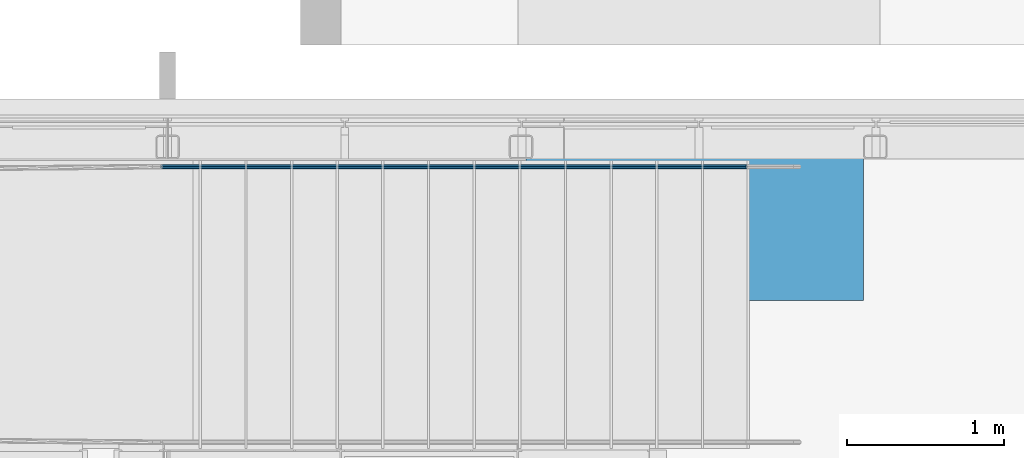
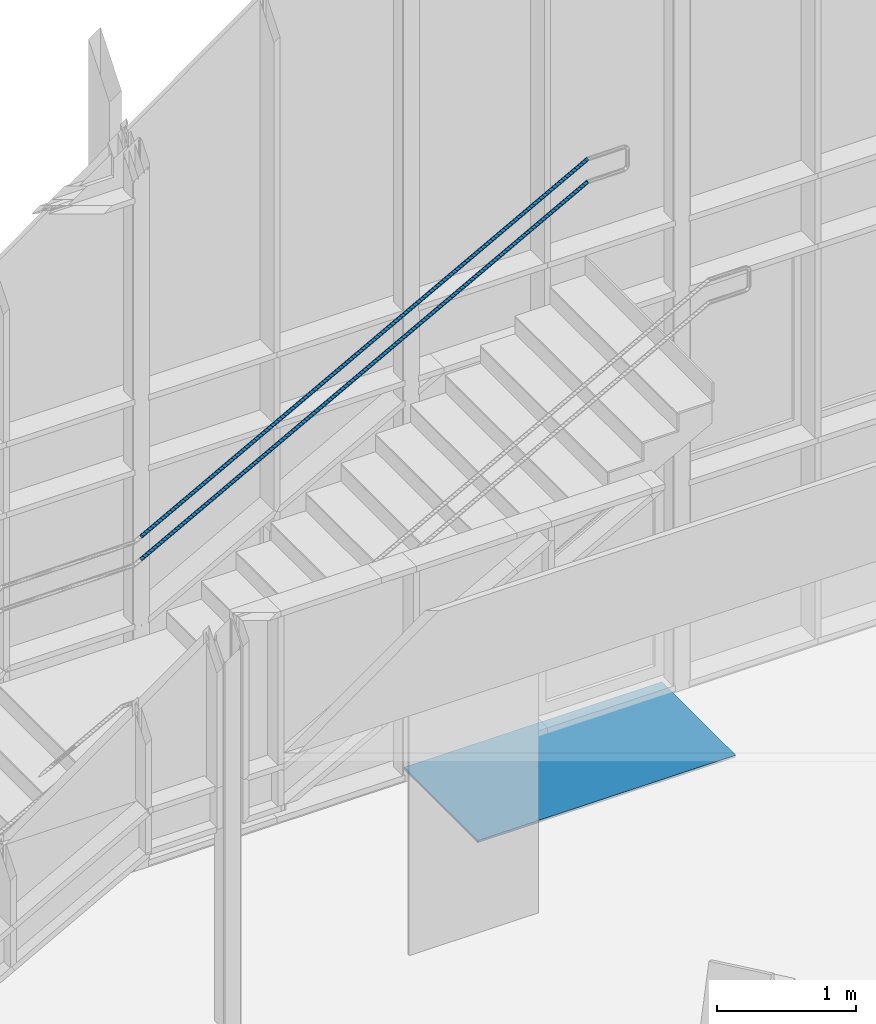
# One storey, part 200 of 301: 2 building element parts, 1 discrete accessory, 1 element without a shape of its own.
"""IFC2X3 building model written with IfcOpenShell, lengths in millimetres."""

from ifc_helpers import new_model, entity, si_unit, converted_unit, derived_unit, money_unit, direction, frame, origin_with_axes, place, context, subcontext, project, spatial, faceted_brep, material, type_object, element, aggregate, save


model = new_model("IFC2X3")

# Units and contexts
model_context = context("Model", 3, precision=0.01, world=origin_with_axes(), true_north=direction((0.0, 1.0)))
body_context = subcontext(model_context, "Body", "Model", "MODEL_VIEW")
ifc_project = project(units=[si_unit("LENGTHUNIT", "METRE", prefix="MILLI"), si_unit("AREAUNIT", "SQUARE_METRE"), si_unit("VOLUMEUNIT", "CUBIC_METRE"), converted_unit("PLANEANGLEUNIT", "DEGREE", entity("IfcPlaneAngleMeasure", 0.0174532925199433), si_unit("PLANEANGLEUNIT", "RADIAN"), dimensions=[0, 0, 0, 0, 0, 0, 0]), money_unit("EUR"), converted_unit("TIMEUNIT", "Year", entity("IfcTimeMeasure", 31557600.0), si_unit("TIMEUNIT", "SECOND"), dimensions=[0, 0, 1, 0, 0, 0, 0]), si_unit("MASSUNIT", "GRAM", prefix="KILO"), si_unit("THERMODYNAMICTEMPERATUREUNIT", "DEGREE_CELSIUS"), si_unit("LUMINOUSINTENSITYUNIT", "LUMEN"), si_unit("ENERGYUNIT", "JOULE", prefix="MEGA"), derived_unit("THERMALCONDUCTANCEUNIT", [(si_unit("POWERUNIT", "WATT"), 1), (si_unit("LENGTHUNIT", "METRE"), -1), (si_unit("THERMODYNAMICTEMPERATUREUNIT", "KELVIN"), -1)]), derived_unit("SPECIFICHEATCAPACITYUNIT", [(si_unit("ENERGYUNIT", "JOULE"), 1), (si_unit("MASSUNIT", "GRAM", prefix="KILO"), -1), (si_unit("THERMODYNAMICTEMPERATUREUNIT", "KELVIN"), -1)]), derived_unit("MASSDENSITYUNIT", [(si_unit("MASSUNIT", "GRAM", prefix="KILO"), 1), (si_unit("VOLUMEUNIT", "CUBIC_METRE"), -1)])], contexts=[model_context])

# Site, building, storey
site_placement = place(None, frame((0.0, 0.0, 8650.0), z_axis=(0.0, 0.0, 1.0), x_axis=(1.0, 0.0, 0.0)))
site = spatial("IfcSite", under=ifc_project, at=site_placement, Name="43301:001:0844", CompositionType="ELEMENT")
building_placement = place(site_placement, origin_with_axes())
building = spatial("IfcBuilding", under=site, at=building_placement, Name="Kuressaare Ametikooli tuulikute mehaanikute õppekorpus", CompositionType="ELEMENT")
storey_placement = place(building_placement, origin_with_axes())
storey = spatial("IfcBuildingStorey", under=building, at=storey_placement, Name="1.korrus", CompositionType="ELEMENT", Elevation=0.0)

# Discrete accessory
ifc_material_1 = material(Name="GENEERILINE - EHITUSTOODE")
discrete_accessory_type = type_object("IfcDiscreteAccessoryType", Name="GENEERILINE - EHITUSTOODE 20")
discrete_accessory_placement = place(storey_placement, frame((113917.1026822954, 27459.57374875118, 0.0), z_axis=(0.0, 0.0, 1.0), x_axis=(1.0, 0.0, 0.0)))
element("IfcDiscreteAccessory", 1, at=discrete_accessory_placement, inside=storey, type_object=discrete_accessory_type, material=ifc_material_1, Name="P1", context=body_context, shape_type="Brep", body=[
    faceted_brep([(0.0, 0.0, 0.0), (0.0, 0.0, -20.0), (2144.994705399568, 0.0, -20.0), (2144.994705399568, 0.0, 0.0), (0.0, 1063.676632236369, 0.0), (0.0, 1063.676632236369, -20.0), (2144.994705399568, 1063.676632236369, -20.0), (2144.994705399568, 1063.676632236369, 0.0)], [[[0, 1, 2, 3]], [[4, 5, 1, 0]], [[2, 1, 5, 6]], [[3, 2, 6, 7]], [[4, 0, 3, 7]], [[7, 6, 5, 4]]]),
])

# Railing, building element parts
railing_type = type_object("IfcRailingType", Name="Railing Type", PredefinedType="NOTDEFINED")
railing_placement = place(storey_placement, frame((107882.9493746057, 28359.57374875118, 157.6923606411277), z_axis=(0.0, 0.0, 1.0), x_axis=(1.0, 0.0, 0.0)))
railing = element("IfcRailing", 2, at=railing_placement, inside=storey, type_object=railing_type, Name="Piire", PredefinedType="NOTDEFINED")
ifc_material_2 = material(Name="Metall - Teras - Roostevaba")
building_element_part_1_placement = place(railing_placement, origin_with_axes())
building_element_part_1 = element("IfcBuildingElementPart", 3, at=building_element_part_1_placement, material=ifc_material_2, Name="Metall - Teras - Roostevaba", context=body_context, shape_type="Brep", body=[
    faceted_brep([(3723.897436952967, -49.13175911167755, 2602.115411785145), (3723.933724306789, -50.00000000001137, 2602.048678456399), (7439.239325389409, -50.00000000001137, 4622.307692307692), (7439.220008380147, -49.13175911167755, 4622.383653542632), (3728.601950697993, -47.39527733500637, 2593.463696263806), (3728.710812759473, -50.00000000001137, 2593.263496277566), (3728.601950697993, -52.60472266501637, 2593.463696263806), (3728.278672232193, -55.13030214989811, 2594.058213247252), (3727.750800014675, -57.50000000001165, 2595.0289831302), (3727.034373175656, -59.64181414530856, 2596.346509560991), (3726.151159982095, -61.49066664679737, 2597.970760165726), (3725.127996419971, -62.99038105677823, 2599.85238291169), (3723.995970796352, -64.09538931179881, 2601.934205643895), (3722.789479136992, -64.7721162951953, 2604.152973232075), (3721.545180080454, -65.00000000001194, 2606.441269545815), (3720.300881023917, -64.7721162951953, 2608.729565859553), (3719.094389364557, -64.09538931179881, 2610.948333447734), (3717.962363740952, -62.99038105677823, 2613.030156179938), (3716.939200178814, -61.49066664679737, 2614.911778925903), (3716.055986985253, -59.64181414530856, 2616.536029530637), (3715.339560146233, -57.50000000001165, 2617.853555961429), (3714.811687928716, -55.13030214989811, 2618.824325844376), (3714.488409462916, -52.60472266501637, 2619.418842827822), (3714.379547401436, -50.00000000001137, 2619.619042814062), (3714.488409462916, -47.39527733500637, 2619.418842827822), (3714.811687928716, -44.86969785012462, 2618.824325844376), (3715.339560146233, -42.50000000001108, 2617.853555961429), (3716.055986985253, -40.35818585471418, 2616.536029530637), (3716.939200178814, -38.50933335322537, 2614.911778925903), (3717.962363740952, -37.0096189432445, 2613.030156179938), (3719.094389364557, -35.90461068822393, 2610.948333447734), (3720.300881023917, -35.22788370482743, 2608.729565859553), (3721.545180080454, -35.0000000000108, 2606.441269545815), (3722.789479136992, -35.22788370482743, 2604.152973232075), (3723.995970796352, -35.90461068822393, 2601.934205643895), (3725.127996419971, -37.0096189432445, 2599.85238291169), (3726.151159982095, -38.50933335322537, 2597.970760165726), (3727.034373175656, -40.35818585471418, 2596.346509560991), (3727.750800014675, -42.50000000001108, 2595.0289831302), (3728.278672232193, -44.86969785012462, 2594.058213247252), (3723.897436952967, -50.86824088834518, 2602.115411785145), (3723.789677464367, -48.28989928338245, 2602.31358411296), (3723.613720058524, -47.50000000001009, 2602.637174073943), (3723.374911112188, -46.78606195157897, 2603.076349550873), (3723.080506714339, -46.16977778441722, 2603.617766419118), (3722.739452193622, -45.66987298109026, 2604.244974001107), (3722.362110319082, -45.30153689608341, 2604.938914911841), (3721.959946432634, -45.07596123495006, 2605.678504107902), (3721.545180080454, -45.00000000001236, 2606.441269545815), (3721.130413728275, -45.07596123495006, 2607.204034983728), (3720.728249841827, -45.30153689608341, 2607.943624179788), (3720.350907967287, -45.66987298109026, 2608.637565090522), (3720.00985344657, -46.16977778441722, 2609.26477267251), (3719.715449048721, -46.78606195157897, 2609.806189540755), (3719.476640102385, -47.50000000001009, 2610.245365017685), (3719.300682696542, -48.28989928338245, 2610.568954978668), (3719.192923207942, -49.13175911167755, 2610.767127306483), (3719.156635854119, -50.00000000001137, 2610.83386063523), (3719.192923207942, -50.86824088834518, 2610.767127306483), (3719.300682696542, -51.71010071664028, 2610.568954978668), (3719.476640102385, -52.50000000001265, 2610.245365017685), (3719.715449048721, -53.21393804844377, 2609.806189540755), (3720.00985344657, -53.83022221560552, 2609.26477267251), (3720.350907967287, -54.33012701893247, 2608.637565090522), (3720.728249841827, -54.69846310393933, 2607.943624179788), (3721.130413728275, -54.92403876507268, 2607.204034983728), (3721.545180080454, -55.00000000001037, 2606.441269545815), (3721.959946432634, -54.92403876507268, 2605.678504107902), (3722.362110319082, -54.69846310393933, 2604.938914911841), (3722.739452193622, -54.33012701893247, 2604.244974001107), (3723.080506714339, -53.83022221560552, 2603.617766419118), (3723.374911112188, -53.21393804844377, 2603.076349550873), (3723.613720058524, -52.50000000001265, 2602.637174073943), (3723.789677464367, -51.71010071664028, 2602.31358411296), (7439.220008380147, -50.86824088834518, 4622.383653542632), (7439.875077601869, -37.0096189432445, 4619.807692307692), (7439.272461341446, -35.90461068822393, 4622.177390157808), (7438.630204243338, -35.22788370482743, 4624.702969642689), (7437.967820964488, -35.0000000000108, 4627.307692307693), (7437.305437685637, -35.22788370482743, 4629.912414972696), (7436.66318058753, -35.90461068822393, 4632.437994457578), (7436.060564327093, -37.0096189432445, 4634.807692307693), (7435.515899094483, -38.50933335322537, 4636.94950645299), (7435.045734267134, -40.35818585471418, 4638.798358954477), (7434.664355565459, -42.50000000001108, 4640.29807336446), (7434.383350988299, -44.86969785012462, 4641.403081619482), (7434.211258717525, -47.39527733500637, 4642.079808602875), (7434.153307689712, -50.00000000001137, 4642.307692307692), (7434.211258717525, -52.60472266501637, 4642.079808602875), (7434.383350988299, -55.13030214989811, 4641.403081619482), (7434.664355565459, -57.50000000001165, 4640.29807336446), (7435.045734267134, -59.64181414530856, 4638.798358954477), (7435.515899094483, -61.49066664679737, 4636.94950645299), (7436.060564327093, -62.99038105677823, 4634.807692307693), (7436.66318058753, -64.09538931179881, 4632.437994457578), (7437.305437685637, -64.7721162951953, 4629.912414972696), (7437.967820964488, -65.00000000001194, 4627.307692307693), (7438.630204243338, -64.7721162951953, 4624.702969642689), (7439.272461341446, -64.09538931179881, 4622.177390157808), (7439.875077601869, -62.99038105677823, 4619.807692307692), (7440.419742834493, -61.49066664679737, 4617.665878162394), (7440.889907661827, -59.64181414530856, 4615.817025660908), (7441.271286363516, -57.50000000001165, 4614.317311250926), (7441.552290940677, -55.13030214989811, 4613.212302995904), (7441.724383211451, -52.60472266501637, 4612.535576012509), (7441.782334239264, -50.00000000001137, 4612.307692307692), (7441.724383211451, -47.39527733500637, 4612.535576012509), (7441.552290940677, -44.86969785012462, 4613.212302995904), (7441.271286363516, -42.50000000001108, 4614.317311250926), (7440.889907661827, -40.35818585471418, 4615.817025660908), (7440.419742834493, -38.50933335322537, 4617.665878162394), (7437.332068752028, -45.66987298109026, 4629.807692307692), (7437.532940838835, -45.30153689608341, 4629.017793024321), (7437.747026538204, -45.07596123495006, 4628.175933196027), (7437.967820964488, -45.00000000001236, 4627.307692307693), (7438.188615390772, -45.07596123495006, 4626.439451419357), (7438.402701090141, -45.30153689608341, 4625.597591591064), (7438.603573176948, -45.66987298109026, 4624.807692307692), (7438.785128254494, -46.16977778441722, 4624.093754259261), (7438.941849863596, -46.78606195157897, 4623.477470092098), (7439.068976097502, -47.50000000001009, 4622.97756528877), (7439.16264428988, -48.28989928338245, 4622.609229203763), (7439.16264428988, -51.71010071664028, 4622.609229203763), (7439.068976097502, -52.50000000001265, 4622.97756528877), (7438.941849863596, -53.21393804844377, 4623.477470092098), (7438.785128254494, -53.83022221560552, 4624.093754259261), (7438.603573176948, -54.33012701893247, 4624.807692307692), (7438.402701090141, -54.69846310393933, 4625.597591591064), (7438.188615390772, -54.92403876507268, 4626.439451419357), (7437.967820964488, -55.00000000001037, 4627.307692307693), (7437.747026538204, -54.92403876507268, 4628.175933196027), (7437.532940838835, -54.69846310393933, 4629.017793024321), (7437.332068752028, -54.33012701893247, 4629.807692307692), (7437.150513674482, -53.83022221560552, 4630.521630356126), (7436.993792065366, -53.21393804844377, 4631.137914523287), (7436.866665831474, -52.50000000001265, 4631.637819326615), (7436.772997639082, -51.71010071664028, 4632.006155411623), (7436.715633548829, -50.86824088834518, 4632.231731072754), (7436.696316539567, -50.00000000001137, 4632.307692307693), (7436.715633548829, -49.13175911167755, 4632.231731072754), (7436.772997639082, -48.28989928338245, 4632.006155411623), (7436.866665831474, -47.50000000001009, 4631.637819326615), (7436.993792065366, -46.78606195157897, 4631.137914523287), (7437.150513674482, -46.16977778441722, 4630.521630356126)], [[[0, 1, 2, 3]], [[4, 5, 6, 7, 8, 9, 10, 11, 12, 13, 14, 15, 16, 17, 18, 19, 20, 21, 22, 23, 24, 25, 26, 27, 28, 29, 30, 31, 32, 33, 34, 35, 36, 37, 38, 39], [40, 1, 0, 41, 42, 43, 44, 45, 46, 47, 48, 49, 50, 51, 52, 53, 54, 55, 56, 57, 58, 59, 60, 61, 62, 63, 64, 65, 66, 67, 68, 69, 70, 71, 72, 73]], [[1, 40, 74, 2]], [[75, 76, 77, 78, 79, 80, 81, 82, 83, 84, 85, 86, 87, 88, 89, 90, 91, 92, 93, 94, 95, 96, 97, 98, 99, 100, 101, 102, 103, 104, 105, 106, 107, 108, 109, 110], [111, 112, 113, 114, 115, 116, 117, 118, 119, 120, 121, 3, 2, 74, 122, 123, 124, 125, 126, 127, 128, 129, 130, 131, 132, 133, 134, 135, 136, 137, 138, 139, 140, 141, 142, 143]], [[41, 0, 3, 121]], [[5, 4, 106, 105]], [[6, 5, 105, 104]], [[7, 6, 104, 103]], [[8, 7, 103, 102]], [[9, 8, 102, 101]], [[10, 9, 101, 100]], [[11, 10, 100, 99]], [[12, 11, 99, 98]], [[13, 12, 98, 97]], [[14, 13, 97, 96]], [[15, 14, 96, 95]], [[16, 15, 95, 94]], [[17, 16, 94, 93]], [[18, 17, 93, 92]], [[19, 18, 92, 91]], [[20, 19, 91, 90]], [[21, 20, 90, 89]], [[22, 21, 89, 88]], [[23, 22, 88, 87]], [[24, 23, 87, 86]], [[25, 24, 86, 85]], [[26, 25, 85, 84]], [[27, 26, 84, 83]], [[28, 27, 83, 82]], [[29, 28, 82, 81]], [[30, 29, 81, 80]], [[31, 30, 80, 79]], [[32, 31, 79, 78]], [[33, 32, 78, 77]], [[34, 33, 77, 76]], [[35, 34, 76, 75]], [[36, 35, 75, 110]], [[37, 36, 110, 109]], [[38, 37, 109, 108]], [[39, 38, 108, 107]], [[4, 39, 107, 106]], [[42, 41, 121, 120]], [[43, 42, 120, 119]], [[44, 43, 119, 118]], [[45, 44, 118, 117]], [[46, 45, 117, 116]], [[47, 46, 116, 115]], [[48, 47, 115, 114]], [[49, 48, 114, 113]], [[50, 49, 113, 112]], [[51, 50, 112, 111]], [[52, 51, 111, 143]], [[53, 52, 143, 142]], [[54, 53, 142, 141]], [[55, 54, 141, 140]], [[56, 55, 140, 139]], [[57, 56, 139, 138]], [[58, 57, 138, 137]], [[59, 58, 137, 136]], [[60, 59, 136, 135]], [[61, 60, 135, 134]], [[62, 61, 134, 133]], [[63, 62, 133, 132]], [[64, 63, 132, 131]], [[65, 64, 131, 130]], [[66, 65, 130, 129]], [[67, 66, 129, 128]], [[68, 67, 128, 127]], [[69, 68, 127, 126]], [[70, 69, 126, 125]], [[71, 70, 125, 124]], [[72, 71, 124, 123]], [[73, 72, 123, 122]], [[40, 73, 122, 74]]]),
])
building_element_part_2_placement = place(railing_placement, origin_with_axes())
building_element_part_2 = element("IfcBuildingElementPart", 4, at=building_element_part_2_placement, material=ifc_material_2, Name="Metall - Teras - Roostevaba", context=body_context, shape_type="Brep", body=[
    faceted_brep([(3723.897436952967, -49.13175911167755, 2802.115411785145), (3723.933724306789, -50.00000000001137, 2802.048678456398), (7439.239325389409, -50.00000000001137, 4822.307692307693), (7439.220008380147, -49.13175911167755, 4822.383653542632), (3728.601950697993, -47.39527733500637, 2793.463696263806), (3728.710812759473, -50.00000000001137, 2793.263496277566), (3728.601950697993, -52.60472266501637, 2793.463696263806), (3728.278672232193, -55.13030214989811, 2794.058213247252), (3727.750800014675, -57.50000000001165, 2795.0289831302), (3727.034373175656, -59.64181414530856, 2796.346509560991), (3726.151159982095, -61.49066664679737, 2797.970760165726), (3725.127996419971, -62.99038105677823, 2799.85238291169), (3723.995970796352, -64.09538931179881, 2801.934205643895), (3722.789479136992, -64.7721162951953, 2804.152973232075), (3721.545180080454, -65.00000000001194, 2806.441269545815), (3720.300881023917, -64.7721162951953, 2808.729565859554), (3719.094389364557, -64.09538931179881, 2810.948333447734), (3717.962363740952, -62.99038105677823, 2813.030156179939), (3716.939200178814, -61.49066664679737, 2814.911778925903), (3716.055986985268, -59.64181414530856, 2816.536029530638), (3715.339560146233, -57.50000000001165, 2817.853555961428), (3714.811687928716, -55.13030214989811, 2818.824325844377), (3714.488409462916, -52.60472266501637, 2819.418842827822), (3714.379547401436, -50.00000000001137, 2819.619042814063), (3714.488409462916, -47.39527733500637, 2819.418842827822), (3714.811687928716, -44.86969785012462, 2818.824325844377), (3715.339560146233, -42.50000000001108, 2817.853555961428), (3716.055986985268, -40.35818585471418, 2816.536029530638), (3716.939200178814, -38.50933335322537, 2814.911778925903), (3717.962363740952, -37.0096189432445, 2813.030156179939), (3719.094389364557, -35.90461068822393, 2810.948333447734), (3720.300881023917, -35.22788370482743, 2808.729565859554), (3721.545180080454, -35.0000000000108, 2806.441269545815), (3722.789479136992, -35.22788370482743, 2804.152973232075), (3723.995970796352, -35.90461068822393, 2801.934205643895), (3725.127996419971, -37.0096189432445, 2799.85238291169), (3726.151159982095, -38.50933335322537, 2797.970760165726), (3727.034373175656, -40.35818585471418, 2796.346509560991), (3727.750800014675, -42.50000000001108, 2795.0289831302), (3728.278672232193, -44.86969785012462, 2794.058213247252), (3723.897436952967, -50.86824088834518, 2802.115411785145), (3723.789677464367, -48.28989928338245, 2802.313584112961), (3723.613720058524, -47.50000000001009, 2802.637174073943), (3723.374911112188, -46.78606195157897, 2803.076349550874), (3723.080506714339, -46.16977778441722, 2803.617766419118), (3722.739452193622, -45.66987298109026, 2804.244974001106), (3722.362110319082, -45.30153689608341, 2804.938914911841), (3721.959946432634, -45.07596123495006, 2805.678504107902), (3721.545180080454, -45.00000000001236, 2806.441269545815), (3721.130413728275, -45.07596123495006, 2807.204034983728), (3720.728249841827, -45.30153689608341, 2807.943624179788), (3720.350907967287, -45.66987298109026, 2808.637565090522), (3720.00985344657, -46.16977778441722, 2809.264772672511), (3719.715449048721, -46.78606195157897, 2809.806189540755), (3719.476640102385, -47.50000000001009, 2810.245365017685), (3719.300682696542, -48.28989928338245, 2810.568954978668), (3719.192923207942, -49.13175911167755, 2810.767127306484), (3719.156635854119, -50.00000000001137, 2810.83386063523), (3719.192923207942, -50.86824088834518, 2810.767127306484), (3719.300682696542, -51.71010071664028, 2810.568954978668), (3719.476640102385, -52.50000000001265, 2810.245365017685), (3719.715449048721, -53.21393804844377, 2809.806189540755), (3720.00985344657, -53.83022221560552, 2809.264772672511), (3720.350907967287, -54.33012701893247, 2808.637565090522), (3720.728249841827, -54.69846310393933, 2807.943624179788), (3721.130413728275, -54.92403876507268, 2807.204034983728), (3721.545180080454, -55.00000000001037, 2806.441269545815), (3721.959946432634, -54.92403876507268, 2805.678504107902), (3722.362110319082, -54.69846310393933, 2804.938914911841), (3722.739452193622, -54.33012701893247, 2804.244974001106), (3723.080506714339, -53.83022221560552, 2803.617766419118), (3723.374911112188, -53.21393804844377, 2803.076349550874), (3723.613720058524, -52.50000000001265, 2802.637174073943), (3723.789677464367, -51.71010071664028, 2802.313584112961), (7439.220008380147, -50.86824088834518, 4822.383653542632), (7439.875077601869, -37.0096189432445, 4819.807692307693), (7439.272461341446, -35.90461068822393, 4822.177390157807), (7438.630204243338, -35.22788370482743, 4824.702969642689), (7437.967820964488, -35.0000000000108, 4827.307692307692), (7437.305437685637, -35.22788370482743, 4829.912414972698), (7436.66318058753, -35.90461068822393, 4832.437994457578), (7436.060564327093, -37.0096189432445, 4834.807692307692), (7435.515899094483, -38.50933335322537, 4836.949506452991), (7435.045734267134, -40.35818585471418, 4838.798358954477), (7434.664355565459, -42.50000000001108, 4840.298073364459), (7434.383350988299, -44.86969785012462, 4841.403081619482), (7434.211258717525, -47.39527733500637, 4842.079808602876), (7434.153307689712, -50.00000000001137, 4842.307692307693), (7434.211258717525, -52.60472266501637, 4842.079808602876), (7434.383350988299, -55.13030214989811, 4841.403081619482), (7434.664355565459, -57.50000000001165, 4840.298073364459), (7435.045734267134, -59.64181414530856, 4838.798358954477), (7435.515899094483, -61.49066664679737, 4836.949506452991), (7436.060564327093, -62.99038105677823, 4834.807692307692), (7436.66318058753, -64.09538931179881, 4832.437994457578), (7437.305437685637, -64.7721162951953, 4829.912414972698), (7437.967820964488, -65.00000000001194, 4827.307692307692), (7438.630204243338, -64.7721162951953, 4824.702969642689), (7439.272461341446, -64.09538931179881, 4822.177390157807), (7439.875077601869, -62.99038105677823, 4819.807692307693), (7440.419742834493, -61.49066664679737, 4817.665878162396), (7440.889907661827, -59.64181414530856, 4815.817025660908), (7441.271286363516, -57.50000000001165, 4814.317311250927), (7441.552290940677, -55.13030214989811, 4813.212302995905), (7441.724383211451, -52.60472266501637, 4812.53557601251), (7441.782334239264, -50.00000000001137, 4812.307692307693), (7441.724383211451, -47.39527733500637, 4812.53557601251), (7441.552290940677, -44.86969785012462, 4813.212302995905), (7441.271286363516, -42.50000000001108, 4814.317311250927), (7440.889907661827, -40.35818585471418, 4815.817025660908), (7440.419742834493, -38.50933335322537, 4817.665878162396), (7437.332068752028, -45.66987298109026, 4829.807692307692), (7437.532940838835, -45.30153689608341, 4829.017793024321), (7437.747026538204, -45.07596123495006, 4828.175933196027), (7437.967820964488, -45.00000000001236, 4827.307692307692), (7438.188615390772, -45.07596123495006, 4826.439451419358), (7438.402701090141, -45.30153689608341, 4825.597591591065), (7438.603573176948, -45.66987298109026, 4824.807692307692), (7438.785128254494, -46.16977778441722, 4824.09375425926), (7438.941849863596, -46.78606195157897, 4823.477470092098), (7439.068976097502, -47.50000000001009, 4822.977565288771), (7439.16264428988, -48.28989928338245, 4822.609229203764), (7439.16264428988, -51.71010071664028, 4822.609229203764), (7439.068976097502, -52.50000000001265, 4822.977565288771), (7438.941849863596, -53.21393804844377, 4823.477470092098), (7438.785128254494, -53.83022221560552, 4824.09375425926), (7438.603573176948, -54.33012701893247, 4824.807692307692), (7438.402701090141, -54.69846310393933, 4825.597591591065), (7438.188615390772, -54.92403876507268, 4826.439451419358), (7437.967820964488, -55.00000000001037, 4827.307692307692), (7437.747026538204, -54.92403876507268, 4828.175933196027), (7437.532940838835, -54.69846310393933, 4829.017793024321), (7437.332068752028, -54.33012701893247, 4829.807692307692), (7437.150513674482, -53.83022221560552, 4830.521630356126), (7436.993792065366, -53.21393804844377, 4831.137914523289), (7436.866665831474, -52.50000000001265, 4831.637819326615), (7436.772997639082, -51.71010071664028, 4832.006155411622), (7436.715633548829, -50.86824088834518, 4832.231731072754), (7436.696316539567, -50.00000000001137, 4832.307692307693), (7436.715633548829, -49.13175911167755, 4832.231731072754), (7436.772997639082, -48.28989928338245, 4832.006155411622), (7436.866665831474, -47.50000000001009, 4831.637819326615), (7436.993792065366, -46.78606195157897, 4831.137914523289), (7437.150513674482, -46.16977778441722, 4830.521630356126)], [[[0, 1, 2, 3]], [[4, 5, 6, 7, 8, 9, 10, 11, 12, 13, 14, 15, 16, 17, 18, 19, 20, 21, 22, 23, 24, 25, 26, 27, 28, 29, 30, 31, 32, 33, 34, 35, 36, 37, 38, 39], [40, 1, 0, 41, 42, 43, 44, 45, 46, 47, 48, 49, 50, 51, 52, 53, 54, 55, 56, 57, 58, 59, 60, 61, 62, 63, 64, 65, 66, 67, 68, 69, 70, 71, 72, 73]], [[1, 40, 74, 2]], [[75, 76, 77, 78, 79, 80, 81, 82, 83, 84, 85, 86, 87, 88, 89, 90, 91, 92, 93, 94, 95, 96, 97, 98, 99, 100, 101, 102, 103, 104, 105, 106, 107, 108, 109, 110], [111, 112, 113, 114, 115, 116, 117, 118, 119, 120, 121, 3, 2, 74, 122, 123, 124, 125, 126, 127, 128, 129, 130, 131, 132, 133, 134, 135, 136, 137, 138, 139, 140, 141, 142, 143]], [[41, 0, 3, 121]], [[5, 4, 106, 105]], [[6, 5, 105, 104]], [[7, 6, 104, 103]], [[8, 7, 103, 102]], [[9, 8, 102, 101]], [[10, 9, 101, 100]], [[11, 10, 100, 99]], [[12, 11, 99, 98]], [[13, 12, 98, 97]], [[14, 13, 97, 96]], [[15, 14, 96, 95]], [[16, 15, 95, 94]], [[17, 16, 94, 93]], [[18, 17, 93, 92]], [[19, 18, 92, 91]], [[20, 19, 91, 90]], [[21, 20, 90, 89]], [[22, 21, 89, 88]], [[23, 22, 88, 87]], [[24, 23, 87, 86]], [[25, 24, 86, 85]], [[26, 25, 85, 84]], [[27, 26, 84, 83]], [[28, 27, 83, 82]], [[29, 28, 82, 81]], [[30, 29, 81, 80]], [[31, 30, 80, 79]], [[32, 31, 79, 78]], [[33, 32, 78, 77]], [[34, 33, 77, 76]], [[35, 34, 76, 75]], [[36, 35, 75, 110]], [[37, 36, 110, 109]], [[38, 37, 109, 108]], [[39, 38, 108, 107]], [[4, 39, 107, 106]], [[42, 41, 121, 120]], [[43, 42, 120, 119]], [[44, 43, 119, 118]], [[45, 44, 118, 117]], [[46, 45, 117, 116]], [[47, 46, 116, 115]], [[48, 47, 115, 114]], [[49, 48, 114, 113]], [[50, 49, 113, 112]], [[51, 50, 112, 111]], [[52, 51, 111, 143]], [[53, 52, 143, 142]], [[54, 53, 142, 141]], [[55, 54, 141, 140]], [[56, 55, 140, 139]], [[57, 56, 139, 138]], [[58, 57, 138, 137]], [[59, 58, 137, 136]], [[60, 59, 136, 135]], [[61, 60, 135, 134]], [[62, 61, 134, 133]], [[63, 62, 133, 132]], [[64, 63, 132, 131]], [[65, 64, 131, 130]], [[66, 65, 130, 129]], [[67, 66, 129, 128]], [[68, 67, 128, 127]], [[69, 68, 127, 126]], [[70, 69, 126, 125]], [[71, 70, 125, 124]], [[72, 71, 124, 123]], [[73, 72, 123, 122]], [[40, 73, 122, 74]]]),
])
aggregate(railing, [building_element_part_1, building_element_part_2])

save(model, "model.ifc")
